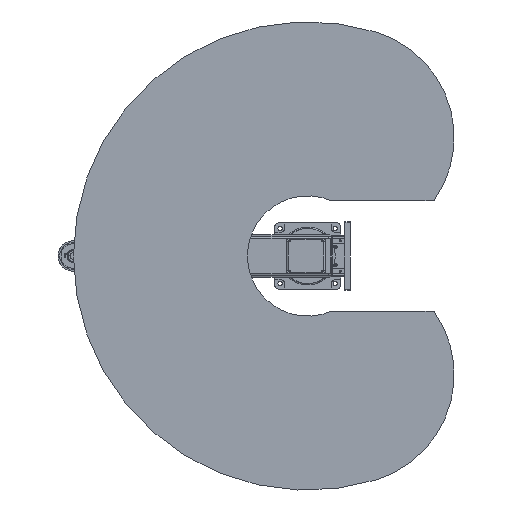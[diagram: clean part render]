
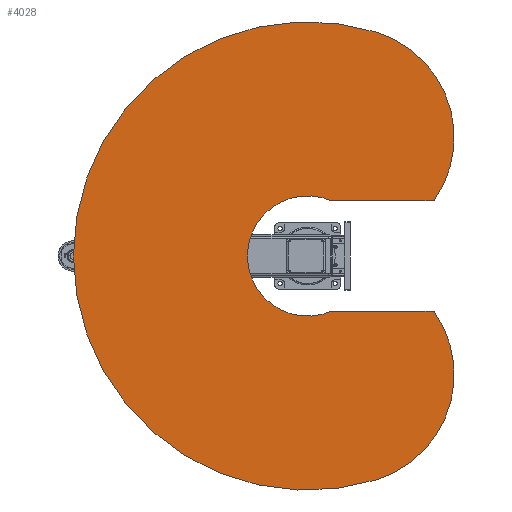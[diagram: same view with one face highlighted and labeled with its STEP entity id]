
A CAD part, front view. The second image highlights one B-rep face of the part: STEP entity #4028.
In plain terms, the highlighted planar face has unit normal (0, -1, 0).
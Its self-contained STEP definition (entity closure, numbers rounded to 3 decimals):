
#4028 = ADVANCED_FACE( '', ( #10222 ), #10223, .F. );
#10222 = FACE_OUTER_BOUND( '', #19659, .T. );
#10223 = PLANE( '', #19660 );
#19659 = EDGE_LOOP( '', ( #32400, #32401, #32402, #32403, #32404, #32405 ) );
#19660 = AXIS2_PLACEMENT_3D( '', #32406, #32407, #32408 );
#32400 = ORIENTED_EDGE( '', *, *, #51732, .F. );
#32401 = ORIENTED_EDGE( '', *, *, #51733, .F. );
#32402 = ORIENTED_EDGE( '', *, *, #49144, .T. );
#32403 = ORIENTED_EDGE( '', *, *, #51734, .F. );
#32404 = ORIENTED_EDGE( '', *, *, #51735, .F. );
#32405 = ORIENTED_EDGE( '', *, *, #50296, .F. );
#32406 = CARTESIAN_POINT( '', ( 430.337, 0., 131.567 ) );
#32407 = DIRECTION( '', ( 0., 1., 0. ) );
#32408 = DIRECTION( '', ( 0., 0., 1. ) );
#49144 = EDGE_CURVE( '', #57652, #57653, #57654, .T. );
#50296 = EDGE_CURVE( '', #59653, #59654, #59655, .T. );
#51732 = EDGE_CURVE( '', #62027, #59653, #62028, .T. );
#51733 = EDGE_CURVE( '', #57652, #62027, #62029, .T. );
#51734 = EDGE_CURVE( '', #62030, #57653, #62031, .T. );
#51735 = EDGE_CURVE( '', #59654, #62030, #62032, .T. );
#57652 = VERTEX_POINT( '', #70114 );
#57653 = VERTEX_POINT( '', #70115 );
#57654 = CIRCLE( '', #70116, 218.3 );
#59653 = VERTEX_POINT( '', #73619 );
#59654 = VERTEX_POINT( '', #73620 );
#59655 = CIRCLE( '', #73621, 850. );
#62027 = VERTEX_POINT( '', #77377 );
#62028 = CIRCLE( '', #77378, 400. );
#62029 = LINE( '', #77379, #77380 );
#62030 = VERTEX_POINT( '', #77381 );
#62031 = LINE( '', #77382, #77383 );
#62032 = CIRCLE( '', #77384, 400. );
#70114 = CARTESIAN_POINT( '', ( 200., 0., 87.492 ) );
#70115 = CARTESIAN_POINT( '', ( -200., 0., 87.492 ) );
#70116 = AXIS2_PLACEMENT_3D( '', #89529, #89530, #89531 );
#73619 = CARTESIAN_POINT( '', ( 812.859, 0., 248.516 ) );
#73620 = CARTESIAN_POINT( '', ( -812.859, 0., 248.516 ) );
#73621 = AXIS2_PLACEMENT_3D( '', #91044, #91045, #91046 );
#77377 = CARTESIAN_POINT( '', ( 200., 0., 458.591 ) );
#77378 = AXIS2_PLACEMENT_3D( '', #92899, #92900, #92901 );
#77379 = CARTESIAN_POINT( '', ( 200., 0., 87.492 ) );
#77380 = VECTOR( '', #92902, 1000. );
#77381 = CARTESIAN_POINT( '', ( -200., 0., 458.591 ) );
#77382 = CARTESIAN_POINT( '', ( -200., 0., 458.591 ) );
#77383 = VECTOR( '', #92903, 1000. );
#77384 = AXIS2_PLACEMENT_3D( '', #92904, #92905, #92906 );
#89529 = CARTESIAN_POINT( '', ( 0., 0., 0. ) );
#89530 = DIRECTION( '', ( 0., 1., 0. ) );
#89531 = DIRECTION( '', ( 1., 0., 0. ) );
#91044 = CARTESIAN_POINT( '', ( 0., 0., 0. ) );
#91045 = DIRECTION( '', ( 0., 1., 0. ) );
#91046 = DIRECTION( '', ( 1., 0., 0. ) );
#92899 = CARTESIAN_POINT( '', ( 430.337, 0., 131.567 ) );
#92900 = DIRECTION( '', ( 0., 1., 0. ) );
#92901 = DIRECTION( '', ( 1., 0., 0. ) );
#92902 = DIRECTION( '', ( 0., 0., 1. ) );
#92903 = DIRECTION( '', ( 0., 0., -1. ) );
#92904 = CARTESIAN_POINT( '', ( -430.337, 0., 131.567 ) );
#92905 = DIRECTION( '', ( 0., 1., 0. ) );
#92906 = DIRECTION( '', ( 1., 0., 0. ) );
